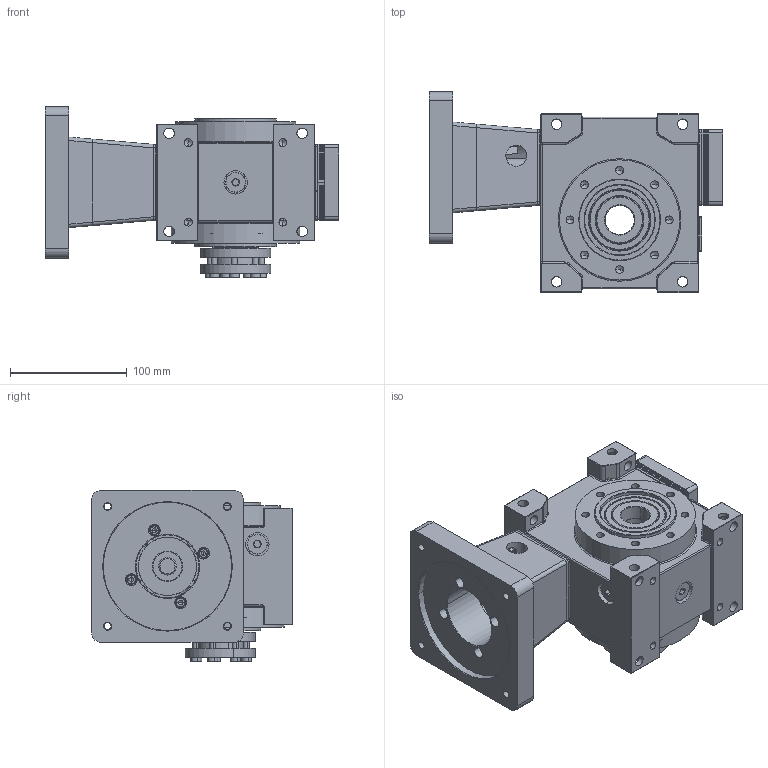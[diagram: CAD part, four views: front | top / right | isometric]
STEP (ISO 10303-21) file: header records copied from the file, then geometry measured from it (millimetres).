
FILE_DESCRIPTION (( 'STEP AP203' ), '1' );
FILE_NAME ('EDB45-40-P3-BM F145 110.STEP', '2022-01-11T10:25:28', ( '' ), ( '' ), 'SwSTEP 2.0', 'SolidWorks 2021', '' );
FILE_SCHEMA (( 'CONFIG_CONTROL_DESIGN' ));
Length unit declared in the file: millimetre
Products named in the file (1): EDB45-40-P3-BM F145 110
Bounding box: 251.25 x 172 x 146.5 mm (x, y, z)
Volume: 2317031.6 mm3; surface area: 372833.3 mm2
Topology: 33 solids, 46 shells, 2106 faces, 5496 edges, 3400 vertices
Faces by surface type: plane 794, cylinder 657, cone 368, torus 271, bspline 14, sphere 2
Entity records: 70435 total; most frequent: CARTESIAN_POINT 18660, DIRECTION 11016, ORIENTED_EDGE 10822, EDGE_CURVE 5411, AXIS2_PLACEMENT_3D 4430, VERTEX_POINT 3400, EDGE_LOOP 2437, CIRCLE 2337
